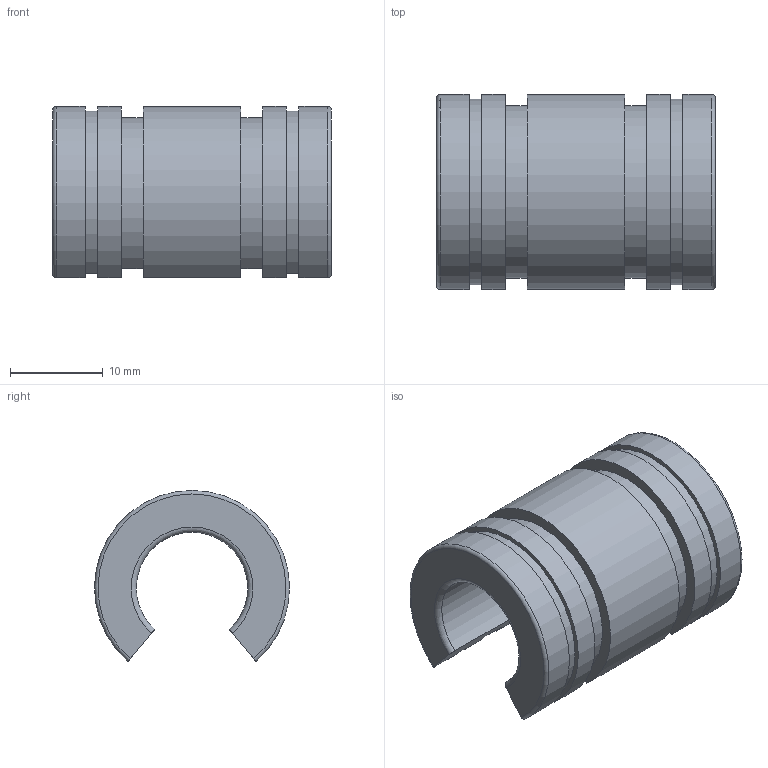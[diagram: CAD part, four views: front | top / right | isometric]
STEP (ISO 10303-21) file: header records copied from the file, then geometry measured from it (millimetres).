
FILE_DESCRIPTION(('STEP AP203'),'1');
FILE_NAME('//192.168.1.1/share/s-4 技術開発/s-4-4_CAD/s-4-4-3_見直し済み/PBC LINEAR修正済み/FJN/FJN_TOP/FJN12.step','2022-03-24T07:44:34',(' '),(' '),'Spatial InterOp 3D',' ',' ');
FILE_SCHEMA(('CONFIG_CONTROL_DESIGN'));
Length unit declared in the file: millimetre
Products named in the file (1): 1
Bounding box: 30 x 21 x 18.42 mm (x, y, z)
Volume: 5039.6 mm3; surface area: 3280.5 mm2
Topology: 1 solids, 1 shells, 26 faces, 72 edges, 48 vertices
Faces by surface type: plane 12, cylinder 10, torus 4
Entity records: 908 total; most frequent: CARTESIAN_POINT 187, ORIENTED_EDGE 144, DIRECTION 142, EDGE_CURVE 72, AXIS2_PLACEMENT_3D 51, VERTEX_POINT 48, LINE 40, VECTOR 40
